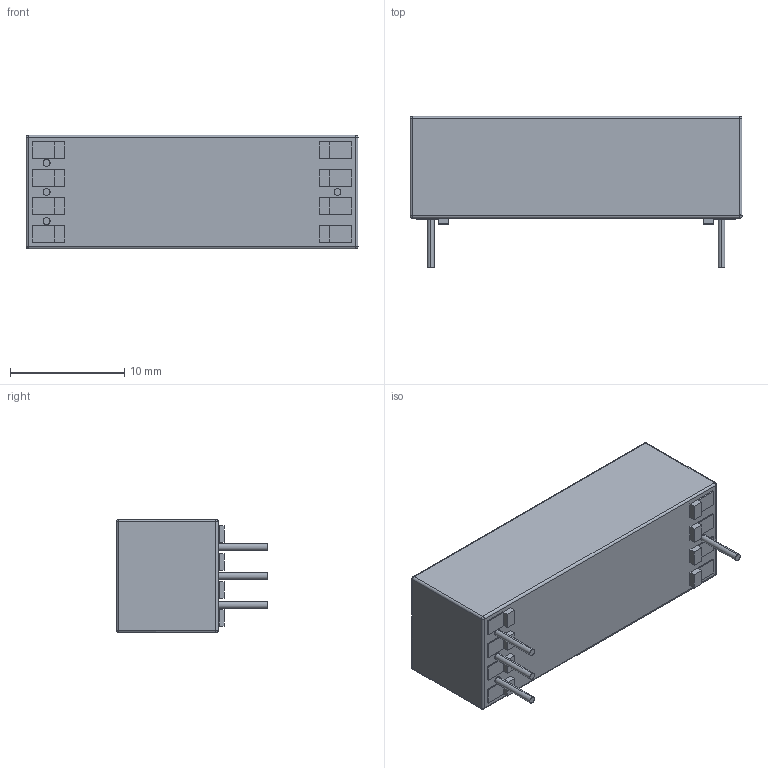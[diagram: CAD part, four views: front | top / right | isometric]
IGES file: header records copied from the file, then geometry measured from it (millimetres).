
Start section: SolidWorks IGES file using analytic representation for surfaces
Global section: file name: T:\Relays in Solidworks\Batch 3\89-1-A.IGS; native system: SolidWorks 2009; preprocessor: SolidWorks 2009; author: alex.leming; date: 100629.144002; units: millimetre
Bounding box: 29 x 13.2 x 9.9 mm (x, y, z)
Surface area: 1303.6 mm2 (no closed solid volume)
Topology: 0 solids, 0 shells, 765 faces, 7412 edges, 7406 vertices
Faces by surface type: bspline 731, revolution 34
